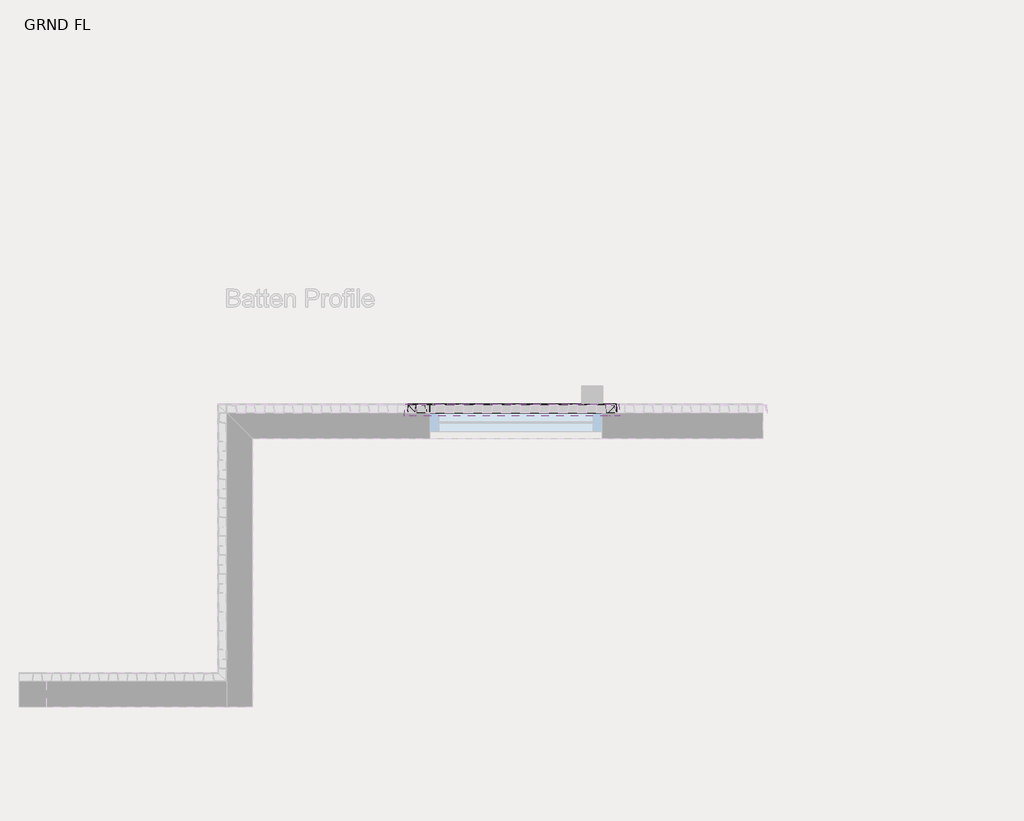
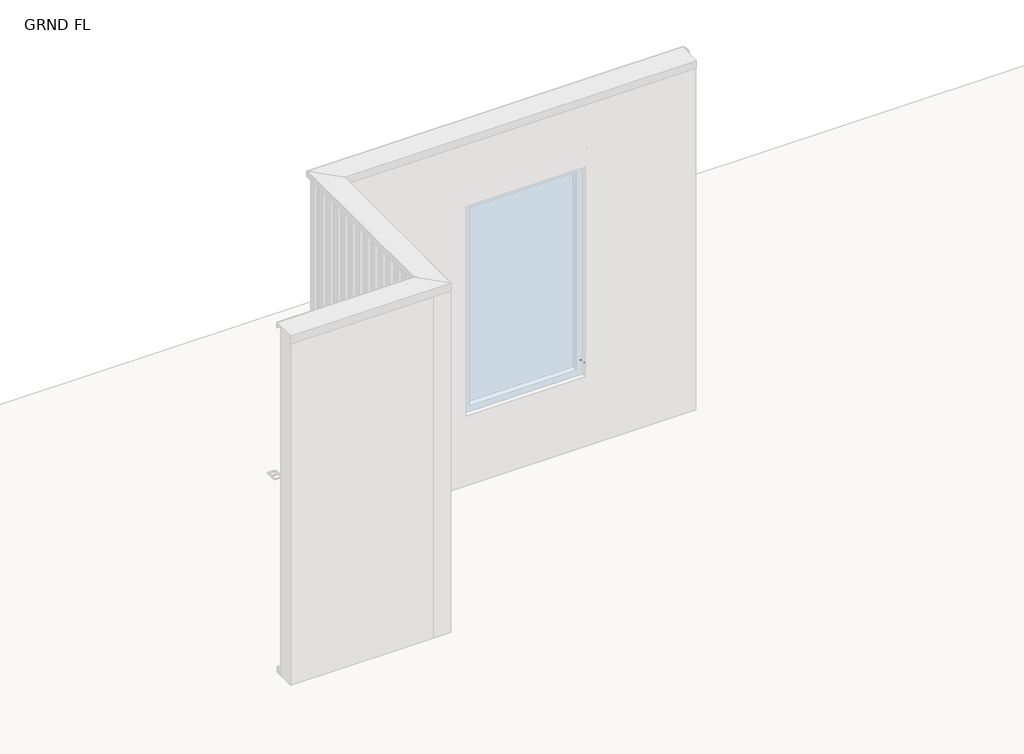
# One storey, part 13 of 13: 4 proxies.
"""IFC4 building model written with IfcOpenShell, lengths in millimetres."""

from ifc_helpers import new_model, si_unit, point, frame, frame_2d, origin, place, context, project, spatial, polyline, circle_curve, ellipse_curve, trimmed, segment, composite_curve, outline, extrude, element, save
from ifc_brep_helpers import plane_surface, cylinder_surface, revolved_surface, advanced_brep

model = new_model("IFC4")

# Units and contexts
model_context = context("Model", 3, world=origin())
ifc_project = project(units=[si_unit("LENGTHUNIT", "METRE", prefix="MILLI")], contexts=[model_context])

# Site, building, storey
site = spatial("IfcSite", under=ifc_project)
building = spatial("IfcBuilding", under=site)
storey = spatial("IfcBuildingStorey", under=building, Name="GRND FL", Elevation=35277.5920148)

# Proxies
placement = place(None, origin())
element("IfcBuildingElementProxy", 1, Name="Nineline Residential Box Jamb Flashing 90x49", ObjectType="Nineline Residential Box Jamb Flashing 90x49", at=placement, inside=storey, context=model_context, shape_type="SweptSolid", body=[
    extrude(outline(composite_curve([segment(polyline([(70670.1903616, -3701.3532629), (70673.8839915, -3743.6108107), (70667.6885119, -3714.4518332), (70668.6666762, -3714.2440002), (70671.4641166, -3727.4101323), (70669.1941599, -3701.4403385)]), True, "CONTINUOUS"), segment(trimmed(circle_curve(frame_2d((70667.2017565, -3701.6144897)), 2.0), [point((70669.1941599, -3701.4403385))], [point((70667.2192095, -3699.6145658))], True, "CARTESIAN"), True, "CONTINUOUS"), segment(polyline([(70667.2192095, -3699.6145658), (70594.2273059, -3698.9775751), (70594.2273059, -3768.6146039), (70593.2273059, -3768.6146039), (70593.2273059, -3697.9688102), (70667.2279361, -3698.6146039)]), True, "CONTINUOUS"), segment(trimmed(circle_curve(frame_2d((70667.2017565, -3701.6144897)), 3.0), [point((70667.2279361, -3698.6146039))], [point((70670.1903616, -3701.3532629))], False, "CARTESIAN"), True, "CONTINUOUS")], self_intersect=False)), frame((0.0, 0.0, 35877.5920148), z_axis=(0.0, 0.0, 1.0), x_axis=(1.0, 0.0, 0.0)), (0.0, 0.0, 1.0), 1800.0),
])
element("IfcBuildingElementProxy", 2, Name="Nineline Residential Box Jamb Flashing 90x49", ObjectType="Nineline Residential Box Jamb Flashing 90x49", at=placement, inside=storey, context=model_context, shape_type="SweptSolid", body=[
    extrude(outline(composite_curve([segment(trimmed(circle_curve(frame_2d((69556.2528553, -3701.6144897)), 3.0), [point((69553.2642502, -3701.3532629))], [point((69556.2266757, -3698.6146039))], False, "CARTESIAN"), True, "CONTINUOUS"), segment(polyline([(69556.2266757, -3698.6146039), (69630.2273059, -3697.9688102), (69630.2273059, -3768.6146039), (69629.2273059, -3768.6146039), (69629.2273059, -3698.9775751), (69556.2354022, -3699.6145658)]), True, "CONTINUOUS"), segment(trimmed(circle_curve(frame_2d((69556.2528553, -3701.6144897)), 2.0), [point((69556.2354022, -3699.6145658))], [point((69554.2604519, -3701.4403385))], True, "CARTESIAN"), True, "CONTINUOUS"), segment(polyline([(69554.2604519, -3701.4403385), (69551.9904951, -3727.4101323), (69554.7879356, -3714.2440002), (69555.7660999, -3714.4518332), (69549.5706203, -3743.6108107), (69553.2642502, -3701.3532629)]), True, "CONTINUOUS")], self_intersect=False)), frame((0.0, 0.0, 35877.5920148), z_axis=(0.0, 0.0, 1.0), x_axis=(1.0, 0.0, 0.0)), (0.0, 0.0, 1.0), 1800.0),
])
element("IfcBuildingElementProxy", 3, Name="Nineline Sill Flashing 50x50", ObjectType="Nineline Sill Flashing 50x50", at=placement, inside=storey, context=model_context, shape_type="AdvancedBrep", body=[
    advanced_brep(
    [(69506.7021624, -3696.6146039, 35829.5920148), (69506.7021624, -3696.6146039, 35876.592129), (70672.6465341, -3696.6146039, 35876.592129), (70672.6465341, -3696.6146039, 35829.5920148), (69510.3674871, -3700.6146039, 35862.1694005), (70668.9812094, -3700.6146039, 35862.1694005), (69509.4579862, -3699.6220578, 35862.2912699), (70669.8907104, -3699.6220578, 35862.2912699), (69507.6184936, -3697.6146039, 35845.9418703), (70671.7302029, -3697.6146039, 35845.9418703), (69507.6184936, -3697.6146039, 35876.592129), (70671.7302029, -3697.6146039, 35876.592129), (69509.4351632, -3699.5971508, 35878.5920529), (70669.9135334, -3699.5971508, 35878.5920529), (69565.3473576, -3760.6146039, 35879.1245441), (70614.001339, -3760.6146039, 35879.1245441), (69565.3473576, -3760.6146039, 35886.5920148), (70614.001339, -3760.6146039, 35886.5920148), (69564.4310264, -3759.6146039, 35886.5920148), (70614.9176702, -3759.6146039, 35886.5920148), (69564.4310264, -3759.6146039, 35880.1158553), (70614.9176702, -3759.6146039, 35880.1158553), (69509.4271668, -3699.5884243, 35879.5920148), (70669.9215298, -3699.5884243, 35879.5920148), (69501.0750806, -3760.9324443, 35876.592129), (69501.0750806, -3760.9324443, 35829.5920148), (69505.0903599, -3760.9324443, 35862.1694005), (69504.0940224, -3760.9324443, 35862.2912699), (69502.0789004, -3760.9324443, 35845.9418703), (69502.0789004, -3760.9324443, 35876.592129), (69504.0690203, -3760.9324443, 35878.5920529), (69565.3195502, -3760.9324443, 35879.1245441), (69565.3195502, -3760.9324443, 35886.5920148), (69564.3157303, -3760.9324443, 35886.5920148), (69564.3157303, -3760.9324443, 35880.1158553), (69504.0602605, -3760.9324443, 35879.5920148), (70678.273616, -3760.9324443, 35876.592129), (70675.2884361, -3760.9324443, 35879.5920148), (70615.0329663, -3760.9324443, 35880.1158553), (70615.0329663, -3760.9324443, 35886.5920148), (70614.0291464, -3760.9324443, 35886.5920148), (70614.0291464, -3760.9324443, 35879.1245441), (70675.2796762, -3760.9324443, 35878.5920529), (70677.2697962, -3760.9324443, 35876.592129), (70677.2697962, -3760.9324443, 35845.9418703), (70675.2546742, -3760.9324443, 35862.2912699), (70674.2583367, -3760.9324443, 35862.1694005), (70678.273616, -3760.9324443, 35829.5920148)],
    [
        (0, 1),
        (1, 2),
        (2, 3),
        (3, 0),
        (4, 0),
        (3, 5),
        (5, 4),
        (6, 4),
        (5, 7),
        (7, 6),
        (8, 6),
        (7, 9),
        (9, 8),
        (10, 8),
        (9, 11),
        (11, 10),
        (12, 10, ellipse_curve(frame((69509.451156, -3699.6146039, 35876.592129), z_axis=(-0.7372773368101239, -0.6755902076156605, 0.0), x_axis=(0.6755902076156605, -0.7372773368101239, 0.0)), 2.7126834, 2.0)),
        (11, 13, ellipse_curve(frame((70669.8975406, -3699.6146039, 35876.592129), z_axis=(0.7372773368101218, -0.6755902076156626, 0.0), x_axis=(0.6755902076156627, 0.7372773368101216, 0.0)), 2.7126834, 2.0)),
        (13, 12),
        (14, 12),
        (13, 15),
        (15, 14),
        (16, 14),
        (15, 17),
        (17, 16),
        (18, 16),
        (17, 19),
        (19, 18),
        (20, 18),
        (19, 21),
        (21, 20),
        (22, 20),
        (21, 23),
        (23, 22),
        (1, 22, ellipse_curve(frame((69509.451156, -3699.6146039, 35876.592129), z_axis=(0.7372773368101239, 0.6755902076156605, 0.0), x_axis=(-0.6755902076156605, 0.7372773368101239, 0.0)), 4.0690251, 3.0)),
        (23, 2, ellipse_curve(frame((70669.8975406, -3699.6146039, 35876.592129), z_axis=(-0.7372773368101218, 0.6755902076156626, 0.0), x_axis=(-0.6755902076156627, -0.7372773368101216, 0.0)), 4.0690251, 3.0)),
        (24, 25),
        (25, 26),
        (26, 27),
        (27, 28),
        (28, 29),
        (29, 30, ellipse_curve(frame((69504.0865401, -3760.9324443, 35876.592129), z_axis=(0.0, 1.0, 0.0), x_axis=(1.0, 0.0, 0.0)), 2.0076397, 2.0)),
        (30, 31),
        (31, 32),
        (32, 33),
        (33, 34),
        (34, 35),
        (35, 24, ellipse_curve(frame((69504.0865401, -3760.9324443, 35876.592129), z_axis=(0.0, -1.0, 0.0), x_axis=(-1.0, 0.0, 0.0)), 3.0114595, 3.0)),
        (24, 1),
        (0, 25),
        (4, 26),
        (6, 27),
        (8, 28),
        (10, 29),
        (12, 30),
        (14, 31),
        (16, 32),
        (18, 33),
        (20, 34),
        (22, 35),
        (36, 37, ellipse_curve(frame((70675.2621565, -3760.9324443, 35876.592129), z_axis=(0.0, -1.0, 0.0), x_axis=(-1.0, 0.0, 0.0)), 3.0114595, 3.0)),
        (37, 38),
        (38, 39),
        (39, 40),
        (40, 41),
        (41, 42),
        (42, 43, ellipse_curve(frame((70675.2621565, -3760.9324443, 35876.592129), z_axis=(0.0, 1.0, 0.0), x_axis=(1.0, 0.0, 0.0)), 2.0076397, 2.0)),
        (43, 44),
        (44, 45),
        (45, 46),
        (46, 47),
        (47, 36),
        (2, 36),
        (47, 3),
        (46, 5),
        (45, 7),
        (44, 9),
        (43, 11),
        (42, 13),
        (41, 15),
        (40, 17),
        (39, 19),
        (38, 21),
        (37, 23),
    ],
    [
        plane_surface(frame((69506.7021624, -3696.6146039, 35876.592129), z_axis=(0.0, 1.0, 0.0), x_axis=(1.0, 0.0, 0.0))),
        plane_surface(frame((69506.7021624, -3696.6146039, 35829.5920148), z_axis=(0.0, -0.9925461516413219, -0.12186934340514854), x_axis=(1.0, 0.0, 0.0))),
        plane_surface(frame((69510.3674871, -3700.6146039, 35862.1694005), z_axis=(0.0, -0.12186934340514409, 0.9925461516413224), x_axis=(1.0, 0.0, 0.0))),
        plane_surface(frame((69509.4579862, -3699.6220578, 35862.2912699), z_axis=(0.0, 0.992546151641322, 0.12186934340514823), x_axis=(1.0, 0.0, 0.0))),
        plane_surface(frame((69507.6184936, -3697.6146039, 35845.9418703), z_axis=(0.0, -1.0, 0.0), x_axis=(1.0, 0.0, 0.0))),
        revolved_surface(polyline([(70671.7302029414, -3697.6146039, 35876.592129), (69507.6184936, -3697.6146039, 35876.592129)]), (69551.60239, -3699.6146039, 35876.592129), (1.0, 0.0, 0.0)),
        plane_surface(frame((69509.4351632, -3699.5971508, 35878.5920529), z_axis=(0.0, -0.008726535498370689, -0.9999619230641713), x_axis=(1.0, 0.0, 0.0))),
        plane_surface(frame((69565.3473576, -3760.6146039, 35879.1245441), z_axis=(0.0, -1.0, 0.0), x_axis=(1.0, 0.0, 0.0))),
        plane_surface(frame((69565.3473576, -3760.6146039, 35886.5920148), z_axis=(0.0, 0.0, 1.0), x_axis=(1.0, 0.0, 0.0))),
        plane_surface(frame((69564.4310264, -3759.6146039, 35886.5920148), z_axis=(0.0, 1.0, 0.0), x_axis=(1.0, 0.0, 0.0))),
        plane_surface(frame((69564.4310264, -3759.6146039, 35880.1158553), z_axis=(0.0, 0.008726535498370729, 0.9999619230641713), x_axis=(1.0, 0.0, 0.0))),
        cylinder_surface(frame((69551.60239, -3699.6146039, 35876.592129), z_axis=(-1.0, 0.0, 0.0), x_axis=(0.0, 1.0, 0.0)), 3.0),
        plane_surface(frame((68493.6836337, -3760.9324443, 35277.5920148), z_axis=(0.0, -1.0, 0.0), x_axis=(-1.0, 0.0, 0.0))),
        plane_surface(frame((69501.0750806, -3760.9324443, 35876.592129), z_axis=(-0.9961946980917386, 0.08715574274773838, 0.0), x_axis=(0.08715574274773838, 0.9961946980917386, 0.0))),
        plane_surface(frame((69501.0750806, -3760.9324443, 35829.5920148), z_axis=(0.9887692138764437, -0.08650609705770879, -0.12186934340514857), x_axis=(0.08715574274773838, 0.9961946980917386, 0.0))),
        plane_surface(frame((69505.0903599, -3760.9324443, 35862.1694005), z_axis=(0.12140559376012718, -0.010621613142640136, 0.9925461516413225), x_axis=(0.08715574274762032, 0.9961946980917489, 0.0))),
        plane_surface(frame((69504.0940224, -3760.9324443, 35862.2912699), z_axis=(-0.9887692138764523, 0.08650609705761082, 0.12186934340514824), x_axis=(0.08715574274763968, 0.9961946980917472, 0.0))),
        plane_surface(frame((69502.0789004, -3760.9324443, 35845.9418703), z_axis=(0.9961946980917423, -0.08715574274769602, 0.0), x_axis=(0.08715574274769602, 0.9961946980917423, 0.0))),
        revolved_surface(polyline([(69507.61849364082, -3697.614603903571, 35876.592129), (69502.07890040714, -3760.932444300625, 35876.592129)]), (69504.4372965, -3756.9232801, 35876.592129), (0.08715574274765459, 0.9961946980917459, 0.0)),
        plane_surface(frame((69504.0690203, -3760.9324443, 35878.5920529), z_axis=(0.00869332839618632, -0.0007605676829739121, -0.9999619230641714), x_axis=(0.08715574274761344, 0.9961946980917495, 0.0))),
        plane_surface(frame((69565.3195502, -3760.9324443, 35879.1245441), z_axis=(0.9961946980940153, -0.08715574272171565, 0.0), x_axis=(0.08715574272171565, 0.9961946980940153, 0.0))),
        plane_surface(frame((69565.3195502, -3760.9324443, 35886.5920148), z_axis=(0.0, 0.0, 1.0000000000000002), x_axis=(0.08715574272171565, 0.9961946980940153, 0.0))),
        plane_surface(frame((69564.3157303, -3760.9324443, 35886.5920148), z_axis=(-0.9961946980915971, 0.08715574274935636, 0.0), x_axis=(0.08715574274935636, 0.9961946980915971, 0.0))),
        plane_surface(frame((69564.3157303, -3760.9324443, 35880.1158553), z_axis=(-0.00869332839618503, 0.0007605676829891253, 0.9999619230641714), x_axis=(0.08715574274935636, 0.9961946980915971, 0.0))),
        cylinder_surface(frame((69504.4372965, -3756.9232801, 35876.592129), z_axis=(-0.08715574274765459, -0.9961946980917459, 0.0), x_axis=(-0.9961946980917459, 0.08715574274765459, 0.0)), 3.0),
        plane_surface(frame((70672.6465341, -3696.6146039, 35876.592129), z_axis=(0.9961946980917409, 0.08715574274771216, 0.0), x_axis=(0.08715574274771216, -0.9961946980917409, 0.0))),
        plane_surface(frame((70672.6465341, -3696.6146039, 35829.5920148), z_axis=(-0.9887692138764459, -0.08650609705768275, -0.12186934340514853), x_axis=(0.08715574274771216, -0.9961946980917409, 0.0))),
        plane_surface(frame((70668.9812094, -3700.6146039, 35862.1694005), z_axis=(-0.1214055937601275, -0.010621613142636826, 0.9925461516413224), x_axis=(0.08715574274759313, -0.9961946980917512, 0.0))),
        plane_surface(frame((70669.8907104, -3699.6220578, 35862.2912699), z_axis=(0.9887692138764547, 0.08650609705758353, 0.1218693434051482), x_axis=(0.08715574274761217, -0.9961946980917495, 0.0))),
        plane_surface(frame((70671.7302029, -3697.6146039, 35845.9418703), z_axis=(-0.9961946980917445, -0.08715574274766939, 0.0), x_axis=(0.08715574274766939, -0.9961946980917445, 0.0))),
        revolved_surface(polyline([(70677.26979617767, -3760.932444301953, 35876.592129), (70671.73020294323, -3697.614603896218, 35876.592129)]), (70673.5712627, -3741.6054397, 35876.592129), (0.08715574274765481, -0.9961946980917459, 0.0)),
        plane_surface(frame((70669.9135334, -3699.5971508, 35878.5920529), z_axis=(-0.008693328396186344, -0.0007605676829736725, -0.9999619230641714), x_axis=(0.08715574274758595, -0.9961946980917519, 0.0))),
        plane_surface(frame((70614.001339, -3760.6146039, 35879.1245441), z_axis=(-0.9961946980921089, -0.08715574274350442, 0.0), x_axis=(0.08715574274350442, -0.9961946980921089, 0.0))),
        plane_surface(frame((70614.001339, -3760.6146039, 35886.5920148), z_axis=(0.0, 0.0, 1.0), x_axis=(0.08715574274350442, -0.9961946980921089, 0.0))),
        plane_surface(frame((70614.9176702, -3759.6146039, 35886.5920148), z_axis=(0.9961946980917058, 0.0871557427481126, 0.0), x_axis=(0.0871557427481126, -0.9961946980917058, 0.0))),
        plane_surface(frame((70614.9176702, -3759.6146039, 35880.1158553), z_axis=(0.008693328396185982, 0.0007605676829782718, 0.9999619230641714), x_axis=(0.0871557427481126, -0.9961946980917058, 0.0))),
        cylinder_surface(frame((70673.5712627, -3741.6054397, 35876.592129), z_axis=(-0.08715574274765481, 0.9961946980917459, 0.0), x_axis=(0.9961946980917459, 0.08715574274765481, 0.0)), 3.0),
    ],
    [
        (0, [[1, 2, 3, 4]]),
        (1, [[5, -4, 6, 7]]),
        (2, [[8, -7, 9, 10]]),
        (3, [[11, -10, 12, 13]]),
        (4, [[14, -13, 15, 16]]),
        (5, [[17, -16, 18, 19]]),
        (6, [[20, -19, 21, 22]]),
        (7, [[23, -22, 24, 25]]),
        (8, [[26, -25, 27, 28]]),
        (9, [[29, -28, 30, 31]]),
        (10, [[32, -31, 33, 34]]),
        (11, [[35, -34, 36, -2]]),
        (12, [[37, 38, 39, 40, 41, 42, 43, 44, 45, 46, 47, 48]]),
        (13, [[-37, 49, -1, 50]]),
        (14, [[-38, -50, -5, 51]]),
        (15, [[-39, -51, -8, 52]]),
        (16, [[-40, -52, -11, 53]]),
        (17, [[-41, -53, -14, 54]]),
        (18, [[-42, -54, -17, 55]]),
        (19, [[-43, -55, -20, 56]]),
        (20, [[-44, -56, -23, 57]]),
        (21, [[-45, -57, -26, 58]]),
        (22, [[-46, -58, -29, 59]]),
        (23, [[-47, -59, -32, 60]]),
        (24, [[-48, -60, -35, -49]]),
        (12, [[61, 62, 63, 64, 65, 66, 67, 68, 69, 70, 71, 72]]),
        (25, [[-3, 73, -72, 74]]),
        (26, [[-6, -74, -71, 75]]),
        (27, [[-9, -75, -70, 76]]),
        (28, [[-12, -76, -69, 77]]),
        (29, [[-15, -77, -68, 78]]),
        (30, [[-18, -78, -67, 79]]),
        (31, [[-21, -79, -66, 80]]),
        (32, [[-24, -80, -65, 81]]),
        (33, [[-27, -81, -64, 82]]),
        (34, [[-30, -82, -63, 83]]),
        (35, [[-33, -83, -62, 84]]),
        (36, [[-36, -84, -61, -73]]),
    ],
),
])
element("IfcBuildingElementProxy", 4, Name="Nineline Head Flashing 50x50", ObjectType="Nineline Head Flashing 50x50", at=placement, inside=storey, context=model_context, shape_type="AdvancedBrep", body=[
    advanced_brep(
    [(69492.3971503, -3694.6146039, 37680.5920148), (69492.3971503, -3694.6146039, 37722.5924717), (70687.1976053, -3694.6146039, 37722.5924717), (70687.1976053, -3694.6146039, 37680.5920148), (69495.1461438, -3697.6146039, 37677.5920148), (70684.4486118, -3697.6146039, 37677.5920148), (69554.7076701, -3762.6146039, 37677.5920148), (70624.8870855, -3762.6146039, 37677.5920148), (69554.7076701, -3762.6146039, 37687.5920148), (70624.8870855, -3762.6146039, 37687.5920148), (69553.791339, -3761.6146039, 37687.5920148), (70625.8034167, -3761.6146039, 37687.5920148), (69553.791339, -3761.6146039, 37678.5920148), (70625.8034167, -3761.6146039, 37678.5920148), (69495.1461438, -3697.6146039, 37678.5920148), (70684.4486118, -3697.6146039, 37678.5920148), (69493.3134815, -3695.6146039, 37680.5920148), (70686.2812742, -3695.6146039, 37680.5920148), (69493.3134815, -3695.6146039, 37722.5924717), (70686.2812742, -3695.6146039, 37722.5924717), (69495.1141594, -3697.5796991, 37724.5921671), (70684.4805962, -3697.5796991, 37724.5921671), (69541.8790337, -3748.6146039, 37725.4829847), (70637.715722, -3748.6146039, 37725.4829847), (69541.8790337, -3748.6146039, 37825.5920148), (70637.715722, -3748.6146039, 37825.5920148), (69540.9627025, -3747.6146039, 37825.5920148), (70638.6320531, -3747.6146039, 37825.5920148), (69540.9627025, -3747.6146039, 37726.4656819), (70638.6320531, -3747.6146039, 37726.4656819), (69495.0981673, -3697.5622467, 37725.5920148), (70684.4965884, -3697.5622467, 37725.5920148), (69486.4201137, -3762.9324443, 37722.5924717), (69486.4201137, -3762.9324443, 37680.5920148), (69489.4315733, -3762.9324443, 37677.5920148), (69554.6798627, -3762.9324443, 37677.5920148), (69554.6798627, -3762.9324443, 37687.5920148), (69553.6760429, -3762.9324443, 37687.5920148), (69553.6760429, -3762.9324443, 37678.5920148), (69489.4315733, -3762.9324443, 37678.5920148), (69487.4239336, -3762.9324443, 37680.5920148), (69487.4239336, -3762.9324443, 37722.5924717), (69489.3965351, -3762.9324443, 37724.5921671), (69540.626385, -3762.9324443, 37725.4829847), (69540.626385, -3762.9324443, 37825.5920148), (69539.6225651, -3762.9324443, 37825.5920148), (69539.6225651, -3762.9324443, 37726.4656819), (69489.379016, -3762.9324443, 37725.5920148), (70693.1746419, -3762.9324443, 37722.5924717), (70690.2157396, -3762.9324443, 37725.5920148), (70639.9721905, -3762.9324443, 37726.4656819), (70639.9721905, -3762.9324443, 37825.5920148), (70638.9683707, -3762.9324443, 37825.5920148), (70638.9683707, -3762.9324443, 37725.4829847), (70690.1982205, -3762.9324443, 37724.5921671), (70692.1708221, -3762.9324443, 37722.5924717), (70692.1708221, -3762.9324443, 37680.5920148), (70690.1631824, -3762.9324443, 37678.5920148), (70625.9187128, -3762.9324443, 37678.5920148), (70625.9187128, -3762.9324443, 37687.5920148), (70624.9148929, -3762.9324443, 37687.5920148), (70624.9148929, -3762.9324443, 37677.5920148), (70690.1631824, -3762.9324443, 37677.5920148), (70693.1746419, -3762.9324443, 37680.5920148)],
    [
        (0, 1),
        (1, 2),
        (2, 3),
        (3, 0),
        (4, 0, ellipse_curve(frame((69495.1461438, -3697.6146039, 37680.5920148), z_axis=(0.737277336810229, 0.6755902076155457, 0.0), x_axis=(-0.6755902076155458, 0.7372773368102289, 0.0)), 4.0690251, 3.0)),
        (3, 5, ellipse_curve(frame((70684.4486118, -3697.6146039, 37680.5920148), z_axis=(-0.7372773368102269, 0.675590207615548, 0.0), x_axis=(-0.6755902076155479, -0.7372773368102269, 0.0)), 4.0690251, 3.0)),
        (5, 4),
        (6, 4),
        (5, 7),
        (7, 6),
        (8, 6),
        (7, 9),
        (9, 8),
        (10, 8),
        (9, 11),
        (11, 10),
        (12, 10),
        (11, 13),
        (13, 12),
        (14, 12),
        (13, 15),
        (15, 14),
        (16, 14, ellipse_curve(frame((69495.1461438, -3697.6146039, 37680.5920148), z_axis=(-0.737277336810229, -0.6755902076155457, 0.0), x_axis=(0.6755902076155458, -0.7372773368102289, 0.0)), 2.7126834, 2.0)),
        (15, 17, ellipse_curve(frame((70684.4486118, -3697.6146039, 37680.5920148), z_axis=(0.7372773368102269, -0.675590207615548, 0.0), x_axis=(0.6755902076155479, 0.7372773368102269, 0.0)), 2.7126834, 2.0)),
        (17, 16),
        (18, 16),
        (17, 19),
        (19, 18),
        (20, 18, ellipse_curve(frame((69495.1461438, -3697.6146039, 37722.5924717), z_axis=(-0.737277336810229, -0.6755902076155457, 0.0), x_axis=(0.6755902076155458, -0.7372773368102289, 0.0)), 2.7126834, 2.0)),
        (19, 21, ellipse_curve(frame((70684.4486118, -3697.6146039, 37722.5924717), z_axis=(0.7372773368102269, -0.675590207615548, 0.0), x_axis=(0.6755902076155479, 0.7372773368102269, 0.0)), 2.7126834, 2.0)),
        (21, 20),
        (22, 20),
        (21, 23),
        (23, 22),
        (24, 22),
        (23, 25),
        (25, 24),
        (26, 24),
        (25, 27),
        (27, 26),
        (28, 26),
        (27, 29),
        (29, 28),
        (30, 28),
        (29, 31),
        (31, 30),
        (1, 30, ellipse_curve(frame((69495.1461438, -3697.6146039, 37722.5924717), z_axis=(0.737277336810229, 0.6755902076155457, 0.0), x_axis=(-0.6755902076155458, 0.7372773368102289, 0.0)), 4.0690251, 3.0)),
        (31, 2, ellipse_curve(frame((70684.4486118, -3697.6146039, 37722.5924717), z_axis=(-0.7372773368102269, 0.675590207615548, 0.0), x_axis=(-0.6755902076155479, -0.7372773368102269, 0.0)), 4.0690251, 3.0)),
        (32, 33),
        (33, 34, ellipse_curve(frame((69489.4315733, -3762.9324443, 37680.5920148), z_axis=(0.0, -1.0, 0.0), x_axis=(-1.0, 0.0, 0.0)), 3.0114595, 3.0)),
        (34, 35),
        (35, 36),
        (36, 37),
        (37, 38),
        (38, 39),
        (39, 40, ellipse_curve(frame((69489.4315733, -3762.9324443, 37680.5920148), z_axis=(0.0, 1.0, 0.0), x_axis=(1.0, 0.0, 0.0)), 2.0076397, 2.0)),
        (40, 41),
        (41, 42, ellipse_curve(frame((69489.4315733, -3762.9324443, 37722.5924717), z_axis=(0.0, 1.0, 0.0), x_axis=(1.0, 0.0, 0.0)), 2.0076397, 2.0)),
        (42, 43),
        (43, 44),
        (44, 45),
        (45, 46),
        (46, 47),
        (47, 32, ellipse_curve(frame((69489.4315733, -3762.9324443, 37722.5924717), z_axis=(0.0, -1.0, 0.0), x_axis=(-1.0, 0.0, 0.0)), 3.0114595, 3.0)),
        (32, 1),
        (0, 33),
        (4, 34),
        (6, 35),
        (8, 36),
        (10, 37),
        (12, 38),
        (14, 39),
        (16, 40),
        (18, 41),
        (20, 42),
        (22, 43),
        (24, 44),
        (26, 45),
        (28, 46),
        (30, 47),
        (48, 49, ellipse_curve(frame((70690.1631824, -3762.9324443, 37722.5924717), z_axis=(0.0, -1.0, 0.0), x_axis=(-1.0, 0.0, 0.0)), 3.0114595, 3.0)),
        (49, 50),
        (50, 51),
        (51, 52),
        (52, 53),
        (53, 54),
        (54, 55, ellipse_curve(frame((70690.1631824, -3762.9324443, 37722.5924717), z_axis=(0.0, 1.0, 0.0), x_axis=(1.0, 0.0, 0.0)), 2.0076397, 2.0)),
        (55, 56),
        (56, 57, ellipse_curve(frame((70690.1631824, -3762.9324443, 37680.5920148), z_axis=(0.0, 1.0, 0.0), x_axis=(1.0, 0.0, 0.0)), 2.0076397, 2.0)),
        (57, 58),
        (58, 59),
        (59, 60),
        (60, 61),
        (61, 62),
        (62, 63, ellipse_curve(frame((70690.1631824, -3762.9324443, 37680.5920148), z_axis=(0.0, -1.0, 0.0), x_axis=(-1.0, 0.0, 0.0)), 3.0114595, 3.0)),
        (63, 48),
        (2, 48),
        (63, 3),
        (62, 5),
        (61, 7),
        (60, 9),
        (59, 11),
        (58, 13),
        (57, 15),
        (56, 17),
        (55, 19),
        (54, 21),
        (53, 23),
        (52, 25),
        (51, 27),
        (50, 29),
        (49, 31),
    ],
    [
        plane_surface(frame((69492.3971503, -3694.6146039, 37722.5924717), z_axis=(0.0, 1.0, 0.0), x_axis=(1.0, 0.0, 0.0))),
        cylinder_surface(frame((69537.2973778, -3697.6146039, 37680.5920148), z_axis=(-1.0, 0.0, 0.0), x_axis=(0.0, 1.0, 0.0)), 3.0),
        plane_surface(frame((69495.1461438, -3697.6146039, 37677.5920148), z_axis=(0.0, 0.0, -1.0), x_axis=(1.0, 0.0, 0.0))),
        plane_surface(frame((69554.7076701, -3762.6146039, 37677.5920148), z_axis=(0.0, -1.0, 0.0), x_axis=(1.0, 0.0, 0.0))),
        plane_surface(frame((69554.7076701, -3762.6146039, 37687.5920148), z_axis=(0.0, 0.0, 1.0), x_axis=(1.0, 0.0, 0.0))),
        plane_surface(frame((69553.791339, -3761.6146039, 37687.5920148), z_axis=(0.0, 1.0, 0.0), x_axis=(1.0, 0.0, 0.0))),
        plane_surface(frame((69553.791339, -3761.6146039, 37678.5920148), z_axis=(0.0, 0.0, 1.0), x_axis=(1.0, 0.0, 0.0))),
        revolved_surface(polyline([(70686.2812742, -3695.6146039, 37680.5920148), (69493.3134814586, -3695.6146039, 37680.5920148)]), (69537.2973778, -3697.6146039, 37680.5920148), (1.0, 0.0, 0.0)),
        plane_surface(frame((69493.3134815, -3695.6146039, 37680.5920148), z_axis=(0.0, -1.0, 0.0), x_axis=(1.0, 0.0, 0.0))),
        revolved_surface(polyline([(70686.2812742, -3695.6146039, 37722.5924717), (69493.3134814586, -3695.6146039, 37722.5924717)]), (69537.2973778, -3697.6146039, 37722.5924717), (1.0, 0.0, 0.0)),
        plane_surface(frame((69495.1141594, -3697.5796991, 37724.5921671), z_axis=(0.0, -0.017452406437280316, -0.9998476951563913), x_axis=(1.0, 0.0, 0.0))),
        plane_surface(frame((69541.8790337, -3748.6146039, 37725.4829847), z_axis=(0.0, -1.0, 0.0), x_axis=(1.0, 0.0, 0.0))),
        plane_surface(frame((69541.8790337, -3748.6146039, 37825.5920148), z_axis=(0.0, 0.0, 1.0), x_axis=(1.0, 0.0, 0.0))),
        plane_surface(frame((69540.9627025, -3747.6146039, 37825.5920148), z_axis=(0.0, 1.0, 0.0), x_axis=(1.0, 0.0, 0.0))),
        plane_surface(frame((69540.9627025, -3747.6146039, 37726.4656819), z_axis=(0.0, 0.0174524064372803, 0.9998476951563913), x_axis=(1.0, 0.0, 0.0))),
        cylinder_surface(frame((69537.2973778, -3697.6146039, 37722.5924717), z_axis=(-1.0, 0.0, 0.0), x_axis=(0.0, 1.0, 0.0)), 3.0),
        plane_surface(frame((68493.6836337, -3762.9324443, 35277.5920148), z_axis=(0.0, -1.0, 0.0), x_axis=(-1.0, 0.0, 0.0))),
        plane_surface(frame((69486.4201137, -3762.9324443, 37722.5924717), z_axis=(-0.9961946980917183, 0.08715574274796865, 0.0), x_axis=(0.08715574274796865, 0.9961946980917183, 0.0))),
        cylinder_surface(frame((69489.7823297, -3758.9232801, 37680.5920148), z_axis=(-0.08715574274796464, -0.9961946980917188, 0.0), x_axis=(-0.9961946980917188, 0.08715574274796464, 0.0)), 3.0),
        plane_surface(frame((69489.4315733, -3762.9324443, 37677.5920148), z_axis=(0.0, 0.0, -1.0), x_axis=(0.08715574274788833, 0.9961946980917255, 0.0))),
        plane_surface(frame((69554.6798627, -3762.9324443, 37677.5920148), z_axis=(0.9961946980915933, -0.08715574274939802, 0.0), x_axis=(0.08715574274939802, 0.9961946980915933, 0.0))),
        plane_surface(frame((69554.6798627, -3762.9324443, 37687.5920148), z_axis=(0.0, 0.0, 1.0), x_axis=(0.08715574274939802, 0.9961946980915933, 0.0))),
        plane_surface(frame((69553.6760429, -3762.9324443, 37687.5920148), z_axis=(-0.9961946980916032, 0.08715574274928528, 0.0), x_axis=(0.08715574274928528, 0.9961946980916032, 0.0))),
        plane_surface(frame((69553.6760429, -3762.9324443, 37678.5920148), z_axis=(0.0, 0.0, 1.0), x_axis=(0.08715574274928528, 0.9961946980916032, 0.0))),
        revolved_surface(polyline([(69493.31348149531, -3695.61460389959, 37680.5920148), (69487.42393360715, -3762.9324443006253, 37680.5920148)]), (69489.7823297, -3758.9232801, 37680.5920148), (0.08715574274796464, 0.9961946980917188, 0.0)),
        plane_surface(frame((69487.4239336, -3762.9324443, 37680.5920148), z_axis=(0.9961946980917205, -0.08715574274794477, 0.0), x_axis=(0.08715574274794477, 0.9961946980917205, 0.0))),
        revolved_surface(polyline([(69493.31348149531, -3695.61460389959, 37722.5924717), (69487.42393360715, -3762.9324443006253, 37722.5924717)]), (69489.7823297, -3758.9232801, 37722.5924717), (0.08715574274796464, 0.9961946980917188, 0.0)),
        plane_surface(frame((69489.3965351, -3762.9324443, 37724.5921671), z_axis=(0.017385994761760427, -0.0015210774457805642, -0.9998476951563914), x_axis=(0.08715574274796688, 0.9961946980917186, 0.0))),
        plane_surface(frame((69540.626385, -3762.9324443, 37725.4829847), z_axis=(0.996194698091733, -0.08715574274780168, 0.0), x_axis=(0.08715574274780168, 0.996194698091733, 0.0))),
        plane_surface(frame((69540.626385, -3762.9324443, 37825.5920148), z_axis=(0.0, 0.0, 1.0), x_axis=(0.08715574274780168, 0.996194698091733, 0.0))),
        plane_surface(frame((69539.6225651, -3762.9324443, 37825.5920148), z_axis=(-0.9961946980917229, 0.08715574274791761, 0.0), x_axis=(0.08715574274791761, 0.9961946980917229, 0.0))),
        plane_surface(frame((69539.6225651, -3762.9324443, 37726.4656819), z_axis=(-0.017385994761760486, 0.0015210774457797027, 0.9998476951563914), x_axis=(0.08715574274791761, 0.9961946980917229, 0.0))),
        cylinder_surface(frame((69489.7823297, -3758.9232801, 37722.5924717), z_axis=(-0.08715574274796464, -0.9961946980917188, 0.0), x_axis=(-0.9961946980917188, 0.08715574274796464, 0.0)), 3.0),
        plane_surface(frame((70687.1976053, -3694.6146039, 37722.5924717), z_axis=(0.9961946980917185, 0.0871557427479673, 0.0), x_axis=(0.0871557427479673, -0.9961946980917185, 0.0))),
        cylinder_surface(frame((70688.1223339, -3739.6054397, 37680.5920148), z_axis=(-0.08715574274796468, 0.9961946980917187, 0.0), x_axis=(0.9961946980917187, 0.08715574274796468, 0.0)), 3.0),
        plane_surface(frame((70684.4486118, -3697.6146039, 37677.5920148), z_axis=(0.0, 0.0, -1.0), x_axis=(0.08715574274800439, -0.9961946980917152, 0.0))),
        plane_surface(frame((70624.8870855, -3762.6146039, 37677.5920148), z_axis=(-0.9961946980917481, -0.08715574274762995, 0.0), x_axis=(0.08715574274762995, -0.9961946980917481, 0.0))),
        plane_surface(frame((70624.8870855, -3762.6146039, 37687.5920148), z_axis=(0.0, 0.0, 1.0000000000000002), x_axis=(0.08715574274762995, -0.9961946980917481, 0.0))),
        plane_surface(frame((70625.8034167, -3761.6146039, 37687.5920148), z_axis=(0.9961946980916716, 0.08715574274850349, 0.0), x_axis=(0.08715574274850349, -0.9961946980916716, 0.0))),
        plane_surface(frame((70625.8034167, -3761.6146039, 37678.5920148), z_axis=(0.0, 0.0, 1.0), x_axis=(0.08715574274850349, -0.9961946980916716, 0.0))),
        revolved_surface(polyline([(70692.17082203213, -3762.9324443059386, 37680.5920148), (70686.28127414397, -3695.6146039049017, 37680.5920148)]), (70688.1223339, -3739.6054397, 37680.5920148), (0.08715574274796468, -0.9961946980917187, 0.0)),
        plane_surface(frame((70686.2812742, -3695.6146039, 37680.5920148), z_axis=(-0.9961946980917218, -0.08715574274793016, 0.0), x_axis=(0.08715574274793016, -0.9961946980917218, 0.0))),
        revolved_surface(polyline([(70692.17082203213, -3762.9324443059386, 37722.5924717), (70686.28127414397, -3695.6146039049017, 37722.5924717)]), (70688.1223339, -3739.6054397, 37722.5924717), (0.08715574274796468, -0.9961946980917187, 0.0)),
        plane_surface(frame((70684.4805962, -3697.5796991, 37724.5921671), z_axis=(-0.017385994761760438, -0.0015210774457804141, -0.9998476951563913), x_axis=(0.08715574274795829, -0.9961946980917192, 0.0))),
        plane_surface(frame((70637.715722, -3748.6146039, 37725.4829847), z_axis=(-0.996194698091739, -0.087155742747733, 0.0), x_axis=(0.087155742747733, -0.996194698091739, 0.0))),
        plane_surface(frame((70637.715722, -3748.6146039, 37825.5920148), z_axis=(0.0, 0.0, 1.0), x_axis=(0.0871557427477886, -0.9961946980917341, 0.0))),
        plane_surface(frame((70638.6320531, -3747.6146039, 37825.5920148), z_axis=(0.996194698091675, 0.0871557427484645, 0.0), x_axis=(0.0871557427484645, -0.996194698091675, 0.0))),
        plane_surface(frame((70638.6320531, -3747.6146039, 37726.4656819), z_axis=(0.017385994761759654, 0.0015210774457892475, 0.9998476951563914), x_axis=(0.0871557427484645, -0.996194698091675, 0.0))),
        cylinder_surface(frame((70688.1223339, -3739.6054397, 37722.5924717), z_axis=(-0.08715574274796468, 0.9961946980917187, 0.0), x_axis=(0.9961946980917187, 0.08715574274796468, 0.0)), 3.0),
    ],
    [
        (0, [[1, 2, 3, 4]]),
        (1, [[5, -4, 6, 7]]),
        (2, [[8, -7, 9, 10]]),
        (3, [[11, -10, 12, 13]]),
        (4, [[14, -13, 15, 16]]),
        (5, [[17, -16, 18, 19]]),
        (6, [[20, -19, 21, 22]]),
        (7, [[23, -22, 24, 25]]),
        (8, [[26, -25, 27, 28]]),
        (9, [[29, -28, 30, 31]]),
        (10, [[32, -31, 33, 34]]),
        (11, [[35, -34, 36, 37]]),
        (12, [[38, -37, 39, 40]]),
        (13, [[41, -40, 42, 43]]),
        (14, [[44, -43, 45, 46]]),
        (15, [[47, -46, 48, -2]]),
        (16, [[49, 50, 51, 52, 53, 54, 55, 56, 57, 58, 59, 60, 61, 62, 63, 64]]),
        (17, [[-49, 65, -1, 66]]),
        (18, [[-50, -66, -5, 67]]),
        (19, [[-51, -67, -8, 68]]),
        (20, [[-52, -68, -11, 69]]),
        (21, [[-53, -69, -14, 70]]),
        (22, [[-54, -70, -17, 71]]),
        (23, [[-55, -71, -20, 72]]),
        (24, [[-56, -72, -23, 73]]),
        (25, [[-57, -73, -26, 74]]),
        (26, [[-58, -74, -29, 75]]),
        (27, [[-59, -75, -32, 76]]),
        (28, [[-60, -76, -35, 77]]),
        (29, [[-61, -77, -38, 78]]),
        (30, [[-62, -78, -41, 79]]),
        (31, [[-63, -79, -44, 80]]),
        (32, [[-64, -80, -47, -65]]),
        (16, [[81, 82, 83, 84, 85, 86, 87, 88, 89, 90, 91, 92, 93, 94, 95, 96]]),
        (33, [[-3, 97, -96, 98]]),
        (34, [[-6, -98, -95, 99]]),
        (35, [[-9, -99, -94, 100]]),
        (36, [[-12, -100, -93, 101]]),
        (37, [[-15, -101, -92, 102]]),
        (38, [[-18, -102, -91, 103]]),
        (39, [[-21, -103, -90, 104]]),
        (40, [[-24, -104, -89, 105]]),
        (41, [[-27, -105, -88, 106]]),
        (42, [[-30, -106, -87, 107]]),
        (43, [[-33, -107, -86, 108]]),
        (44, [[-36, -108, -85, 109]]),
        (45, [[-39, -109, -84, 110]]),
        (46, [[-42, -110, -83, 111]]),
        (47, [[-45, -111, -82, 112]]),
        (48, [[-48, -112, -81, -97]]),
    ],
),
])

save(model, "model.ifc")
